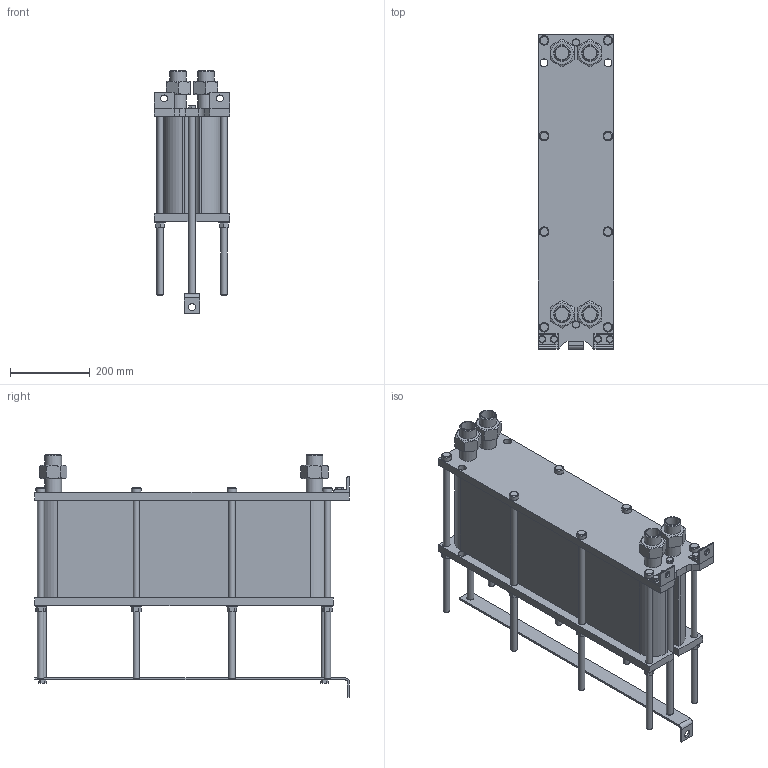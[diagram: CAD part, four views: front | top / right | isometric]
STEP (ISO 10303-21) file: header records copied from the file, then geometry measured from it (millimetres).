
FILE_DESCRIPTION(/* description */ (''),/* implementation_level */ '2;1');
FILE_NAME(/* name */ 'C:\Users\zhuro\Desktop\ENCO\TO\ЭН-008\ЭН-0,5-008-79-1.stp',/* time_stamp */ '2022-06-06T10:52:28+03:00',/* author */ ('zhuro'),/* organization */ (''),/* preprocessor_version */ 'ST-DEVELOPER v18.1',/* originating_system */ 'Autodesk Inventor 2022',/* authorisation */ '');
FILE_SCHEMA (('AUTOMOTIVE_DESIGN { 1 0 10303 214 3 1 1 }'));
Length unit declared in the file: millimetre
Products named in the file (1): ЭН-0,5-008-79-1
Bounding box: 190 x 790 x 608.2 mm (x, y, z)
Volume: 31846594.2 mm3; surface area: 1843889.4 mm2
Topology: 40 solids, 40 shells, 428 faces, 924 edges, 606 vertices
Faces by surface type: plane 273, cylinder 109, cone 40, torus 6
Full cylindrical faces by diameter (mm): 12 x6, 14 x2, 16 x20, 17 x8, 18 x19, 20 x5, 24 x8, 28 x8, 34.3 x8, 42.3 x8
Entity records: 15843 total; most frequent: CARTESIAN_POINT 5991, DIRECTION 1984, ORIENTED_EDGE 1848, EDGE_CURVE 924, AXIS2_PLACEMENT_3D 715, VERTEX_POINT 606, LINE 554, VECTOR 554
